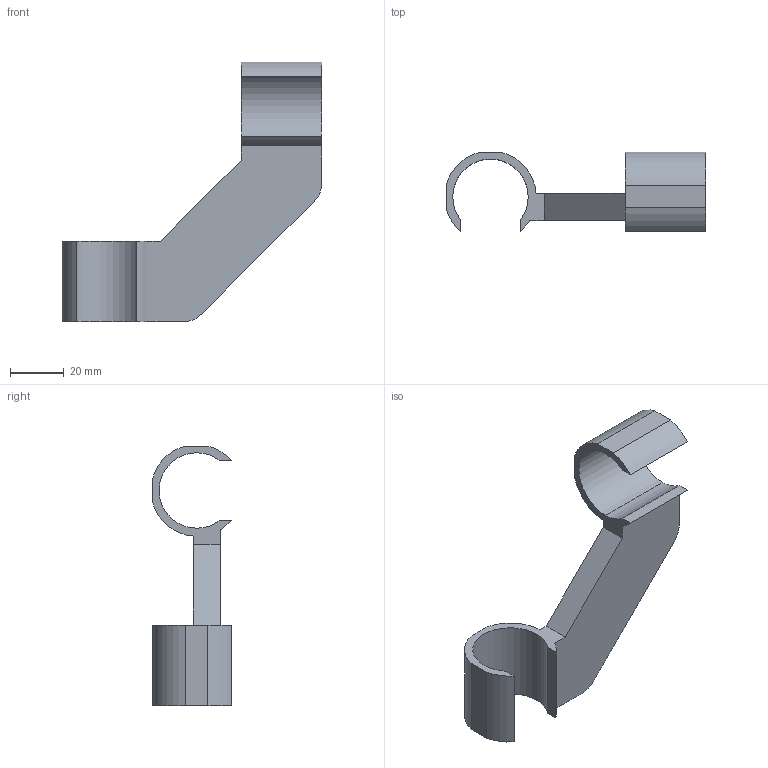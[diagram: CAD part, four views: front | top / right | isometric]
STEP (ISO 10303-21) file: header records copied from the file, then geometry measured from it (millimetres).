
FILE_DESCRIPTION (( 'STEP AP214' ), '1' );
FILE_NAME ('PJ-700A.STEP', '2023-09-12T11:22:30', ( 'catia' ), ( 'HP Inc.' ), 'SwSTEP 2.0', 'SolidWorks 2021', '' );
FILE_SCHEMA (( 'AUTOMOTIVE_DESIGN' ));
Length unit declared in the file: millimetre
Products named in the file (1): PJ-700A
Bounding box: 96.5 x 29.46 x 96.5 mm (x, y, z)
Volume: 35143 mm3; surface area: 15486 mm2
Topology: 1 solids, 1 shells, 32 faces, 90 edges, 60 vertices
Faces by surface type: cylinder 16, plane 16
Entity records: 1080 total; most frequent: DIRECTION 188, CARTESIAN_POINT 183, ORIENTED_EDGE 180, EDGE_CURVE 90, AXIS2_PLACEMENT_3D 65, VERTEX_POINT 60, VECTOR 58, LINE 58
